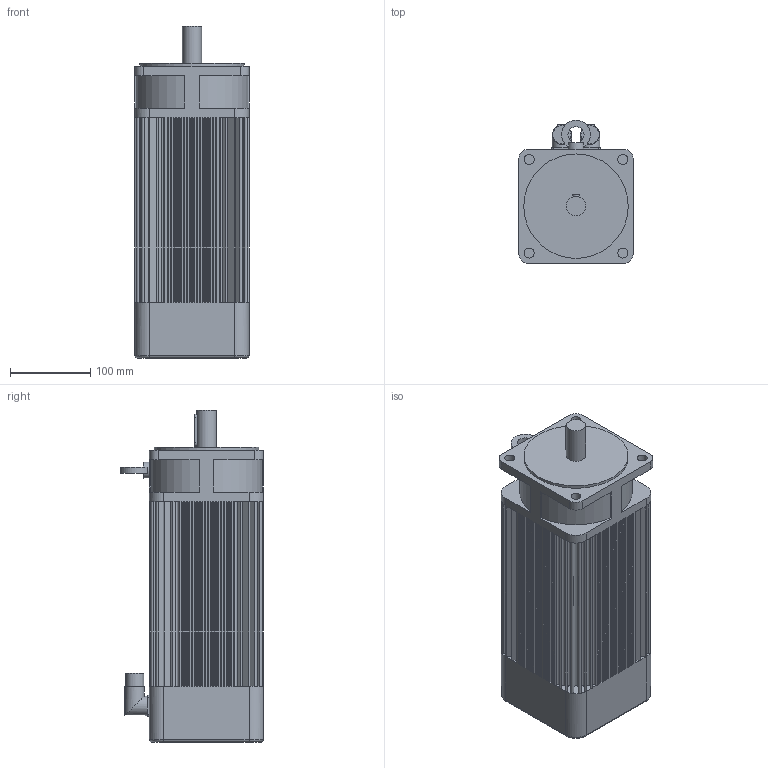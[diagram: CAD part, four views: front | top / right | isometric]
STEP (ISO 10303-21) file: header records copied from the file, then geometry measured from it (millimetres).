
FILE_DESCRIPTION(/* description */ (''),/* implementation_level */ '2;1');
FILE_NAME(/* name */ '\\Lafnas01\disegni\Archivi Lafert\3D\CAD 3D\MODELLI\Assiemi clienti\Serad\Modelli 3D Serad\B71I\Encoder\Enc With Brake\B7124Ixx6BRx2033.ipt.stp',/* time_stamp */ '2015-09-07T10:51:34+02:00',/* author */ ('Pastrello Ylenia'),/* organization */ (''),/* preprocessor_version */ 'ST-DEVELOPER v15.6',/* originating_system */ 'Autodesk Inventor 2015',/* authorisation */ '');
FILE_SCHEMA (('AUTOMOTIVE_DESIGN { 1 0 10303 214 3 1 1 }'));
Length unit declared in the file: millimetre
Products named in the file (1): B7124Ixx6BRx2033
Bounding box: 142 x 178 x 413.5 mm (x, y, z)
Volume: 6816375.1 mm3; surface area: 379748.9 mm2
Topology: 1 solids, 1 shells, 547 faces, 1378 edges, 903 vertices
Faces by surface type: plane 430, cylinder 113, torus 4
Full cylindrical faces by diameter (mm): 12.5 x4, 20 x2, 22.7 x2, 24 x3, 130 x1
Entity records: 16305 total; most frequent: CARTESIAN_POINT 2863, DIRECTION 2786, ORIENTED_EDGE 2724, EDGE_CURVE 1362, LINE 1026, VECTOR 1026, VERTEX_POINT 900, AXIS2_PLACEMENT_3D 880
